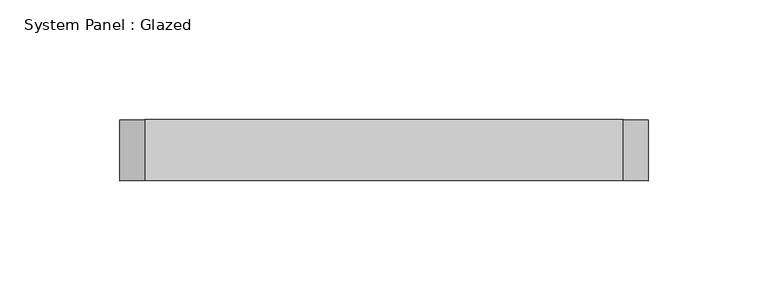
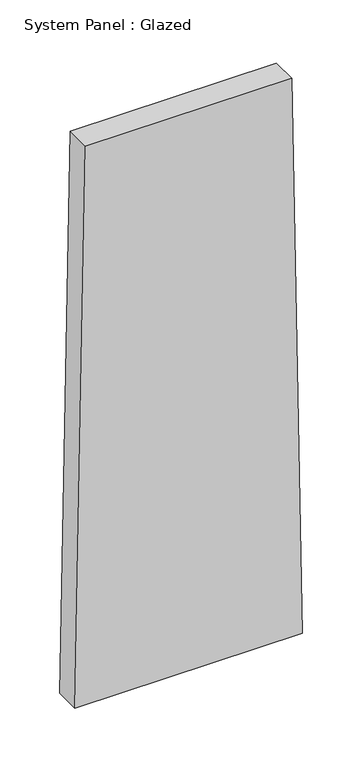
"""IFC4 building model written with IfcOpenShell, lengths in millimetres: plate geometry, System Panel : Glazed."""

from ifc_helpers import new_model, si_unit, frame, origin, place, context, project, spatial, polyline, outline, extrude, source, transform, mapped, element, save


def system_panel_glazed_945bf34b(model_context):
    return source(origin(), model_context, "Body", "SweptSolid", [
        extrude(outline(polyline([(0.0, -110.0359915), (0.0, 110.0359915), (571.4014818, 99.7618709), (571.4014818, -99.7618709), (0.0, -110.0359915)])), frame((0.0, 19.05, 0.0), z_axis=(0.0, 1.0, 0.0), x_axis=(0.0, 0.0, 1.0)), (0.0, 0.0, 1.0), 25.4),
    ])


if __name__ == "__main__":
    model = new_model("IFC4")
    model_context = context("Model", 3, world=origin())
    ifc_project = project(units=[si_unit("LENGTHUNIT", "METRE", prefix="MILLI")], contexts=[model_context])
    site = spatial("IfcSite", under=ifc_project)
    building = spatial("IfcBuilding", under=site)
    placement = place(None, origin())
    system_panel_glazed_shape = system_panel_glazed_945bf34b(model_context)
    element("IfcPlate", 1, ObjectType="System Panel : Glazed", at=placement, inside=building, context=model_context, shape_type="MappedRepresentation", body=[
        mapped(system_panel_glazed_shape, transform((0.0, 0.0, 0.0), x_axis=(1.0, 0.0, 0.0), y_axis=(0.0, 1.0, 0.0), z_axis=(0.0, 0.0, 1.0))),
    ])
    save(model, "model.ifc")
